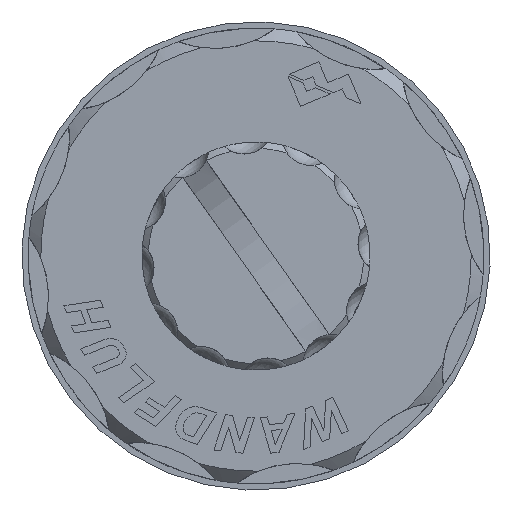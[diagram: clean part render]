
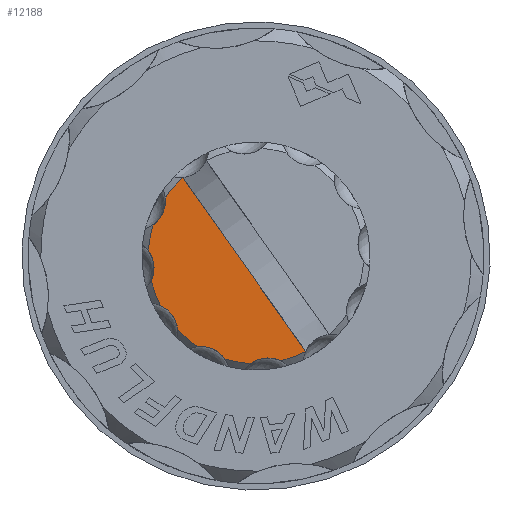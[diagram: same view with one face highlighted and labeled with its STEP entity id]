
A CAD part, left-side view. The second image highlights one B-rep face of the part: STEP entity #12188.
In plain terms, the highlighted planar face has unit normal (-1, 0, 0).
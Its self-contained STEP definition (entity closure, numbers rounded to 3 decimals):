
#8 = AXIS2_PLACEMENT_3D ( 'NONE', #11080, #5367, #12020 ) ;
#67 = ORIENTED_EDGE ( 'NONE', *, *, #1124, .T. ) ;
#306 = EDGE_CURVE ( 'NONE', #9922, #3659, #5043, .T. ) ;
#405 = DIRECTION ( 'NONE',  ( 0., -0.578, -0.816 ) ) ;
#450 = DIRECTION ( 'NONE',  ( -1., 0., 0. ) ) ;
#552 = EDGE_CURVE ( 'NONE', #9574, #7828, #1917, .T. ) ;
#625 = CIRCLE ( 'NONE', #9208, 8.5 ) ;
#712 = CIRCLE ( 'NONE', #1133, 2.314 ) ;
#747 = EDGE_CURVE ( 'NONE', #7828, #2297, #625, .T. ) ;
#756 = CARTESIAN_POINT ( 'NONE',  ( -57.2, 0.386, -8.491 ) ) ;
#779 = EDGE_CURVE ( 'NONE', #5113, #6613, #3223, .T. ) ;
#787 = CARTESIAN_POINT ( 'NONE',  ( -57.2, 8.491, 0.386 ) ) ;
#815 = EDGE_CURVE ( 'NONE', #1432, #3542, #4729, .T. ) ;
#838 = EDGE_CURVE ( 'NONE', #5286, #2909, #7229, .T. ) ;
#878 = EDGE_CURVE ( 'NONE', #10676, #6477, #3541, .T. ) ;
#953 = DIRECTION ( 'NONE',  ( -1., 0., 0. ) ) ;
#981 = CIRCLE ( 'NONE', #8896, 2.314 ) ;
#1102 = EDGE_CURVE ( 'NONE', #9922, #9574, #10792, .T. ) ;
#1123 = EDGE_CURVE ( 'NONE', #2297, #5113, #3527, .T. ) ;
#1124 = EDGE_CURVE ( 'NONE', #6613, #1432, #981, .T. ) ;
#1133 = AXIS2_PLACEMENT_3D ( 'NONE', #8936, #3279, #9917 ) ;
#1142 = EDGE_CURVE ( 'NONE', #4854, #5286, #5751, .T. ) ;
#1144 = EDGE_CURVE ( 'NONE', #1504, #10676, #3228, .T. ) ;
#1160 = EDGE_CURVE ( 'NONE', #1461, #6477, #7955, .T. ) ;
#1162 = EDGE_CURVE ( 'NONE', #1461, #3659, #2942, .T. ) ;
#1167 = CARTESIAN_POINT ( 'NONE',  ( -57.2, 0., 0. ) ) ;
#1291 = DIRECTION ( 'NONE',  ( 0., 0.578, 0.816 ) ) ;
#1427 = DIRECTION ( 'NONE',  ( 1., 0., 0. ) ) ;
#1432 = VERTEX_POINT ( 'NONE', #2707 ) ;
#1461 = VERTEX_POINT ( 'NONE', #9397 ) ;
#1504 = VERTEX_POINT ( 'NONE', #10591 ) ;
#1819 = CARTESIAN_POINT ( 'NONE',  ( -57.2, -3.922, -7.523 ) ) ;
#1917 = CIRCLE ( 'NONE', #9488, 2.314 ) ;
#2128 = DIRECTION ( 'NONE',  ( 0., -0.578, -0.816 ) ) ;
#2297 = VERTEX_POINT ( 'NONE', #12264 ) ;
#2304 = AXIS2_PLACEMENT_3D ( 'NONE', #4902, #11540, #5842 ) ;
#2316 = DIRECTION ( 'NONE',  ( -1., 0., 0. ) ) ;
#2402 = DIRECTION ( 'NONE',  ( 1., 0., 0. ) ) ;
#2443 = CARTESIAN_POINT ( 'NONE',  ( -57.2, 0., 0. ) ) ;
#2707 = CARTESIAN_POINT ( 'NONE',  ( -57.2, 8.274, -1.948 ) ) ;
#2909 = VERTEX_POINT ( 'NONE', #6536 ) ;
#2942 = CIRCLE ( 'NONE', #8864, 8.5 ) ;
#3032 = ORIENTED_EDGE ( 'NONE', *, *, #10411, .T. ) ;
#3223 = CIRCLE ( 'NONE', #9192, 8.5 ) ;
#3228 = CIRCLE ( 'NONE', #8868, 2.314 ) ;
#3279 = DIRECTION ( 'NONE',  ( 1., 0., 0. ) ) ;
#3284 = CARTESIAN_POINT ( 'NONE',  ( -57.2, 6.142, 6.678 ) ) ;
#3328 = CARTESIAN_POINT ( 'NONE',  ( -57.2, 10.369, -0.966 ) ) ;
#3377 = CARTESIAN_POINT ( 'NONE',  ( -57.2, 6.191, -5.824 ) ) ;
#3411 = DIRECTION ( 'NONE',  ( 0., -0.578, -0.816 ) ) ;
#3527 = CIRCLE ( 'NONE', #8922, 2.314 ) ;
#3541 = CIRCLE ( 'NONE', #9087, 8.5 ) ;
#3542 = VERTEX_POINT ( 'NONE', #11154 ) ;
#3563 = ORIENTED_EDGE ( 'NONE', *, *, #552, .T. ) ;
#3602 = DIRECTION ( 'NONE',  ( 1., 0., 0. ) ) ;
#3659 = VERTEX_POINT ( 'NONE', #7272 ) ;
#4287 = DIRECTION ( 'NONE',  ( 0., -0.578, -0.816 ) ) ;
#4729 = CIRCLE ( 'NONE', #9147, 8.5 ) ;
#4767 = ORIENTED_EDGE ( 'NONE', *, *, #747, .T. ) ;
#4783 = CARTESIAN_POINT ( 'NONE',  ( -57.2, 8.139, 2.45 ) ) ;
#4854 = VERTEX_POINT ( 'NONE', #8469 ) ;
#4874 = ORIENTED_EDGE ( 'NONE', *, *, #1160, .F. ) ;
#4885 = DIRECTION ( 'NONE',  ( -1., 0., 0. ) ) ;
#4902 = CARTESIAN_POINT ( 'NONE',  ( -57.2, 8.497, -6.021 ) ) ;
#5043 = CIRCLE ( 'NONE', #9807, 2.314 ) ;
#5113 = VERTEX_POINT ( 'NONE', #4783 ) ;
#5286 = VERTEX_POINT ( 'NONE', #3377 ) ;
#5341 = ORIENTED_EDGE ( 'NONE', *, *, #779, .T. ) ;
#5367 = DIRECTION ( 'NONE',  ( 1., 0., 0. ) ) ;
#5441 = ORIENTED_EDGE ( 'NONE', *, *, #1102, .T. ) ;
#5666 = DIRECTION ( 'NONE',  ( -1., 0., 0. ) ) ;
#5751 = CIRCLE ( 'NONE', #8891, 2.314 ) ;
#5785 = CARTESIAN_POINT ( 'NONE',  ( -57.2, 0., 0. ) ) ;
#5842 = DIRECTION ( 'NONE',  ( 0., -0.578, -0.816 ) ) ;
#6163 = DIRECTION ( 'NONE',  ( 1., 0., 0. ) ) ;
#6200 = CARTESIAN_POINT ( 'NONE',  ( -57.2, -0.966, -10.369 ) ) ;
#6410 = CIRCLE ( 'NONE', #2304, 2.314 ) ;
#6477 = VERTEX_POINT ( 'NONE', #756 ) ;
#6536 = CARTESIAN_POINT ( 'NONE',  ( -57.2, 4.58, -7.161 ) ) ;
#6613 = VERTEX_POINT ( 'NONE', #787 ) ;
#6645 = CARTESIAN_POINT ( 'NONE',  ( -57.2, 0., 0. ) ) ;
#6693 = ORIENTED_EDGE ( 'NONE', *, *, #306, .F. ) ;
#6721 = DIRECTION ( 'NONE',  ( 0., -0.578, -0.816 ) ) ;
#7082 = CARTESIAN_POINT ( 'NONE',  ( -57.2, 9.463, 4.348 ) ) ;
#7150 = DIRECTION ( 'NONE',  ( 0., 0.093, 0.996 ) ) ;
#7229 = CIRCLE ( 'NONE', #9127, 8.5 ) ;
#7236 = PLANE ( 'NONE',  #8 ) ;
#7261 = CARTESIAN_POINT ( 'NONE',  ( -57.2, 5.798, 6.194 ) ) ;
#7272 = CARTESIAN_POINT ( 'NONE',  ( -57.2, -3.911, -7.547 ) ) ;
#7328 = ORIENTED_EDGE ( 'NONE', *, *, #1123, .T. ) ;
#7595 = DIRECTION ( 'NONE',  ( 0., -0.578, -0.816 ) ) ;
#7802 = DIRECTION ( 'NONE',  ( -1., 0., 0. ) ) ;
#7828 = VERTEX_POINT ( 'NONE', #7945 ) ;
#7945 = CARTESIAN_POINT ( 'NONE',  ( -57.2, 5.824, 6.191 ) ) ;
#7955 = CIRCLE ( 'NONE', #8866, 2.314 ) ;
#7956 = EDGE_CURVE ( 'NONE', #2909, #1504, #712, .T. ) ;
#7982 = CARTESIAN_POINT ( 'NONE',  ( -57.2, -6.021, -8.497 ) ) ;
#8028 = DIRECTION ( 'NONE',  ( 0., -0.578, -0.816 ) ) ;
#8066 = CARTESIAN_POINT ( 'NONE',  ( -57.2, 4.348, -9.463 ) ) ;
#8252 = VECTOR ( 'NONE', #1291, 1000. ) ;
#8469 = CARTESIAN_POINT ( 'NONE',  ( -57.2, 6.609, -4.683 ) ) ;
#8824 = ORIENTED_EDGE ( 'NONE', *, *, #838, .T. ) ;
#8864 = AXIS2_PLACEMENT_3D ( 'NONE', #2443, #9068, #3411 ) ;
#8866 = AXIS2_PLACEMENT_3D ( 'NONE', #6200, #450, #7150 ) ;
#8868 = AXIS2_PLACEMENT_3D ( 'NONE', #8066, #2402, #9026 ) ;
#8891 = AXIS2_PLACEMENT_3D ( 'NONE', #11863, #6163, #405 ) ;
#8896 = AXIS2_PLACEMENT_3D ( 'NONE', #3328, #9959, #4287 ) ;
#8922 = AXIS2_PLACEMENT_3D ( 'NONE', #7082, #1427, #8028 ) ;
#8934 = DIRECTION ( 'NONE',  ( 0., 0.578, 0.816 ) ) ;
#8936 = CARTESIAN_POINT ( 'NONE',  ( -57.2, 4.348, -9.463 ) ) ;
#8952 = ORIENTED_EDGE ( 'NONE', *, *, #1142, .T. ) ;
#9026 = DIRECTION ( 'NONE',  ( 0., -0.578, -0.816 ) ) ;
#9068 = DIRECTION ( 'NONE',  ( -1., 0., 0. ) ) ;
#9087 = AXIS2_PLACEMENT_3D ( 'NONE', #1167, #7802, #2128 ) ;
#9127 = AXIS2_PLACEMENT_3D ( 'NONE', #10560, #4885, #11522 ) ;
#9147 = AXIS2_PLACEMENT_3D ( 'NONE', #5785, #12466, #6721 ) ;
#9192 = AXIS2_PLACEMENT_3D ( 'NONE', #6645, #953, #7595 ) ;
#9208 = AXIS2_PLACEMENT_3D ( 'NONE', #11366, #5666, #12338 ) ;
#9279 = CARTESIAN_POINT ( 'NONE',  ( -57.2, 6.021, 8.497 ) ) ;
#9397 = CARTESIAN_POINT ( 'NONE',  ( -57.2, -1.948, -8.274 ) ) ;
#9488 = AXIS2_PLACEMENT_3D ( 'NONE', #9279, #3602, #10237 ) ;
#9574 = VERTEX_POINT ( 'NONE', #7261 ) ;
#9731 = EDGE_LOOP ( 'NONE', ( #6693, #5441, #3563, #4767, #7328, #5341, #67, #10189, #3032, #8952, #8824, #11560, #12349, #10854, #4874, #10242 ) ) ;
#9807 = AXIS2_PLACEMENT_3D ( 'NONE', #7982, #2316, #8934 ) ;
#9917 = DIRECTION ( 'NONE',  ( 0., -0.578, -0.816 ) ) ;
#9922 = VERTEX_POINT ( 'NONE', #1819 ) ;
#9959 = DIRECTION ( 'NONE',  ( 1., 0., 0. ) ) ;
#10189 = ORIENTED_EDGE ( 'NONE', *, *, #815, .T. ) ;
#10237 = DIRECTION ( 'NONE',  ( 0., -0.578, -0.816 ) ) ;
#10242 = ORIENTED_EDGE ( 'NONE', *, *, #1162, .T. ) ;
#10411 = EDGE_CURVE ( 'NONE', #3542, #4854, #6410, .T. ) ;
#10560 = CARTESIAN_POINT ( 'NONE',  ( -57.2, 0., 0. ) ) ;
#10591 = CARTESIAN_POINT ( 'NONE',  ( -57.2, 2.46, -8.125 ) ) ;
#10676 = VERTEX_POINT ( 'NONE', #11567 ) ;
#10792 = LINE ( 'NONE', #3284, #8252 ) ;
#10854 = ORIENTED_EDGE ( 'NONE', *, *, #878, .T. ) ;
#11080 = CARTESIAN_POINT ( 'NONE',  ( -57.2, 5.204, 7.343 ) ) ;
#11154 = CARTESIAN_POINT ( 'NONE',  ( -57.2, 7.547, -3.911 ) ) ;
#11366 = CARTESIAN_POINT ( 'NONE',  ( -57.2, 0., 0. ) ) ;
#11522 = DIRECTION ( 'NONE',  ( 0., -0.578, -0.816 ) ) ;
#11540 = DIRECTION ( 'NONE',  ( 1., 0., 0. ) ) ;
#11560 = ORIENTED_EDGE ( 'NONE', *, *, #7956, .T. ) ;
#11567 = CARTESIAN_POINT ( 'NONE',  ( -57.2, 2.45, -8.139 ) ) ;
#11807 = FACE_OUTER_BOUND ( 'NONE', #9731, .T. ) ;
#11863 = CARTESIAN_POINT ( 'NONE',  ( -57.2, 8.497, -6.021 ) ) ;
#12020 = DIRECTION ( 'NONE',  ( 0., -0.578, -0.816 ) ) ;
#12188 = ADVANCED_FACE ( 'NONE', ( #11807 ), #7236, .F. ) ;
#12264 = CARTESIAN_POINT ( 'NONE',  ( -57.2, 7.161, 4.58 ) ) ;
#12338 = DIRECTION ( 'NONE',  ( 0., -0.578, -0.816 ) ) ;
#12349 = ORIENTED_EDGE ( 'NONE', *, *, #1144, .T. ) ;
#12466 = DIRECTION ( 'NONE',  ( -1., 0., 0. ) ) ;
